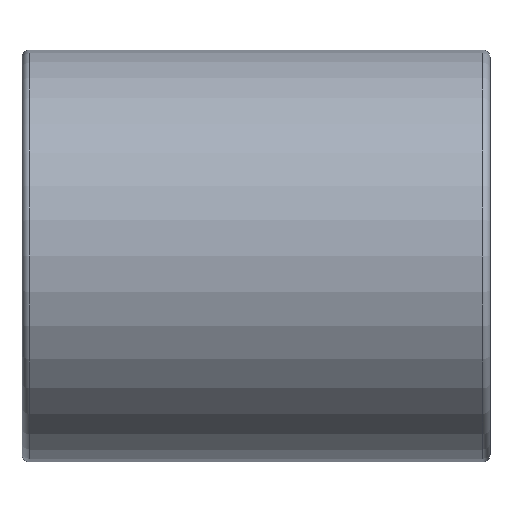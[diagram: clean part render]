
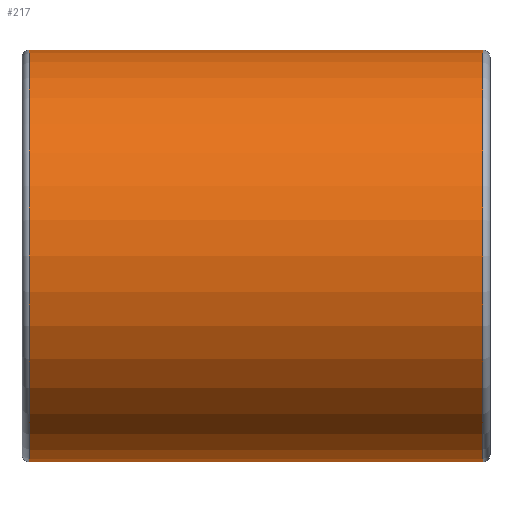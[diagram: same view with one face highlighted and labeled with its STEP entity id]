
A CAD part, front view. The second image highlights one B-rep face of the part: STEP entity #217.
In plain terms, the highlighted cylindrical face has radius 55 mm (diameter 110 mm), a full revolution.
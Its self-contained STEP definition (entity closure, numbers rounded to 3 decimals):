
#27=CYLINDRICAL_SURFACE('',#250,55.);
#32=FACE_BOUND('',#70,.T.);
#47=FACE_OUTER_BOUND('',#69,.T.);
#69=EDGE_LOOP('',(#156));
#70=EDGE_LOOP('',(#157));
#103=CIRCLE('',#248,55.);
#105=CIRCLE('',#251,55.);
#120=VERTEX_POINT('',#365);
#122=VERTEX_POINT('',#370);
#137=EDGE_CURVE('',#120,#120,#103,.T.);
#139=EDGE_CURVE('',#122,#122,#105,.T.);
#156=ORIENTED_EDGE('',*,*,#139,.F.);
#157=ORIENTED_EDGE('',*,*,#137,.F.);
#217=ADVANCED_FACE('',(#47,#32),#27,.T.);
#248=AXIS2_PLACEMENT_3D('',#366,#289,#290);
#250=AXIS2_PLACEMENT_3D('',#369,#293,#294);
#251=AXIS2_PLACEMENT_3D('',#371,#295,#296);
#289=DIRECTION('center_axis',(-1.,0.,0.));
#290=DIRECTION('ref_axis',(0.,0.,-1.));
#293=DIRECTION('center_axis',(-1.,0.,0.));
#294=DIRECTION('ref_axis',(0.,0.,1.));
#295=DIRECTION('center_axis',(1.,0.,0.));
#296=DIRECTION('ref_axis',(0.,0.,-1.));
#365=CARTESIAN_POINT('',(-103.,0.,55.));
#366=CARTESIAN_POINT('Origin',(-103.,0.,0.));
#369=CARTESIAN_POINT('Origin',(-42.5,0.,0.));
#370=CARTESIAN_POINT('',(18.,0.,55.));
#371=CARTESIAN_POINT('Origin',(18.,0.,0.));
